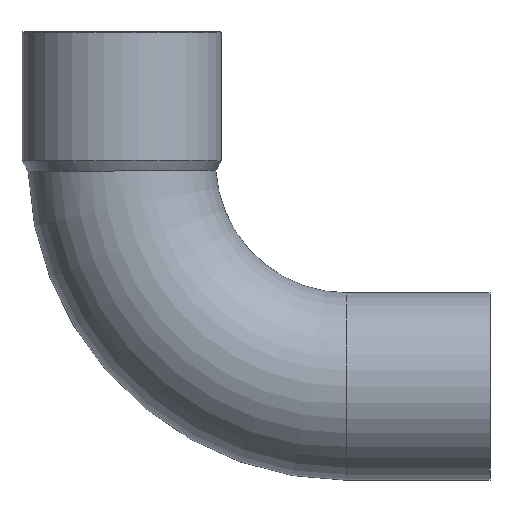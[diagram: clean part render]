
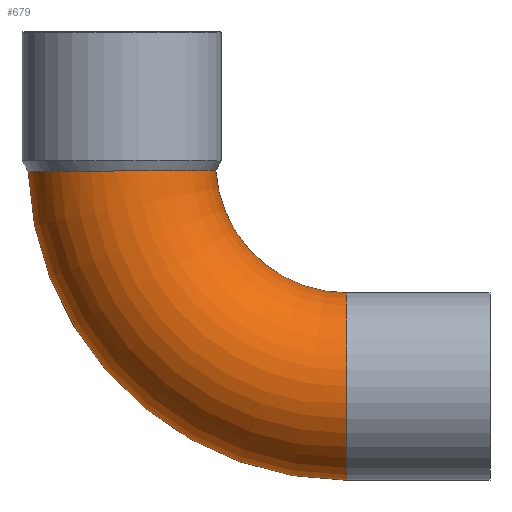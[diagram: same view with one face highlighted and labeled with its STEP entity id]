
A CAD part, front view. The second image highlights one B-rep face of the part: STEP entity #679.
In plain terms, the highlighted toroidal (fillet/blend) face has major radius 33.6 mm and minor radius 14 mm.
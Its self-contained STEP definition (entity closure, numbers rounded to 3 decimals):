
#49=CARTESIAN_POINT('',(-25.543,0.,-1.438));
#50=VERTEX_POINT('',#49);
#51=CARTESIAN_POINT('',(22.035,0.,-47.6));
#52=VERTEX_POINT('',#51);
#53=CARTESIAN_POINT('',(22.035,0.,0.0));
#54=DIRECTION('',(0.0,-1.0,0.0));
#55=DIRECTION('',(0.0,0.0,-1.0));
#56=AXIS2_PLACEMENT_3D('',#53,#54,#55);
#57=CIRCLE('',#56,47.6);
#58=EDGE_CURVE('',#50,#52,#57,.T.);
#60=CARTESIAN_POINT('',(2.48,0.,-1.323));
#61=VERTEX_POINT('',#60);
#85=CARTESIAN_POINT('',(22.035,0.,-19.6));
#86=VERTEX_POINT('',#85);
#87=CARTESIAN_POINT('',(22.035,0.,0.0));
#88=DIRECTION('',(0.0,1.0,0.0));
#89=DIRECTION('',(0.0,0.0,-1.0));
#90=AXIS2_PLACEMENT_3D('',#87,#88,#89);
#91=CIRCLE('',#90,19.6);
#92=EDGE_CURVE('',#86,#61,#91,.T.);
#210=CARTESIAN_POINT('',(2.48,0.,-1.323));
#211=CARTESIAN_POINT('',(2.48,-0.121,-1.323));
#212=CARTESIAN_POINT('',(2.478,-0.242,-1.323));
#213=CARTESIAN_POINT('',(2.428,-2.185,-1.323));
#214=CARTESIAN_POINT('',(2.025,-3.979,-1.327));
#215=CARTESIAN_POINT('',(0.552,-7.315,-1.338));
#216=CARTESIAN_POINT('',(-0.504,-8.824,-1.346));
#217=CARTESIAN_POINT('',(-3.137,-11.354,-1.362));
#218=CARTESIAN_POINT('',(-4.688,-12.35,-1.371));
#219=CARTESIAN_POINT('',(-8.085,-13.691,-1.387));
#220=CARTESIAN_POINT('',(-9.897,-14.023,-1.394));
#221=CARTESIAN_POINT('',(-13.547,-13.974,-1.407));
#222=CARTESIAN_POINT('',(-15.349,-13.594,-1.413));
#223=CARTESIAN_POINT('',(-18.706,-12.165,-1.422));
#224=CARTESIAN_POINT('',(-20.228,-11.129,-1.426));
#225=CARTESIAN_POINT('',(-22.789,-8.534,-1.432));
#226=CARTESIAN_POINT('',(-23.803,-6.999,-1.434));
#227=CARTESIAN_POINT('',(-25.187,-3.627,-1.437));
#228=CARTESIAN_POINT('',(-25.543,-1.822,-1.438));
#229=CARTESIAN_POINT('',(-25.543,0.,-1.438));
#230=B_SPLINE_CURVE_WITH_KNOTS('',3,(#210,#211,#212,#213,#214,#215,#216,#217,#218,#219,#220,#221,#222,#223,#224,#225,#226,#227,#228,#229),.UNSPECIFIED.,.F.,.U.,(4,2,2,2,2,2,2,2,2,4),(-4.414,-4.377,-3.831,-3.283,-2.736,-2.188,-1.641,-1.093,-0.547,0.0),.UNSPECIFIED.);
#231=EDGE_CURVE('',#61,#50,#230,.T.);
#535=CARTESIAN_POINT('',(22.035,0.,-33.6));
#536=DIRECTION('',(-1.0,0.0,0.0));
#537=DIRECTION('',(0.0,0.0,-1.0));
#538=AXIS2_PLACEMENT_3D('',#535,#536,#537);
#539=CIRCLE('',#538,14.);
#540=EDGE_CURVE('',#52,#86,#539,.T.);
#668=CARTESIAN_POINT('',(22.035,0.,0.0));
#669=DIRECTION('',(0.0,-1.0,0.0));
#670=DIRECTION('',(0.0,0.0,-1.0));
#671=AXIS2_PLACEMENT_3D('',#668,#669,#670);
#672=TOROIDAL_SURFACE('',#671,33.6,14.);
#673=ORIENTED_EDGE('',*,*,#58,.T.);
#674=ORIENTED_EDGE('',*,*,#540,.T.);
#675=ORIENTED_EDGE('',*,*,#92,.T.);
#676=ORIENTED_EDGE('',*,*,#231,.T.);
#677=EDGE_LOOP('',(#673,#674,#675,#676));
#678=FACE_OUTER_BOUND('',#677,.T.);
#679=ADVANCED_FACE('',(#678),#672,.T.);
